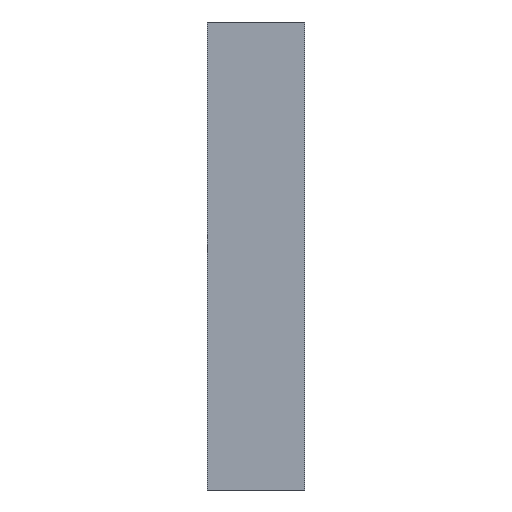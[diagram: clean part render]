
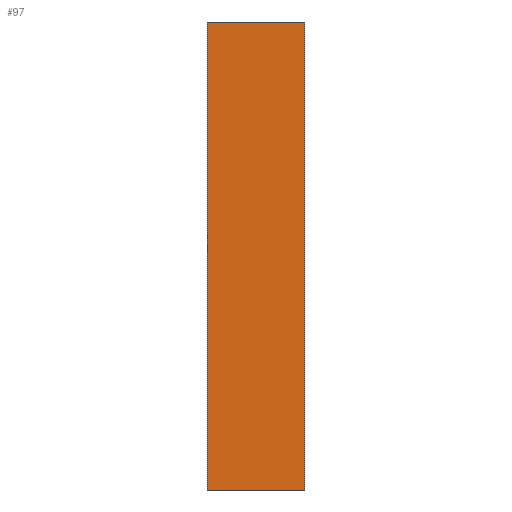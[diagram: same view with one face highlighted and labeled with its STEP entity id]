
A CAD part, front view. The second image highlights one B-rep face of the part: STEP entity #97.
In plain terms, the highlighted planar face has unit normal (0, -1, 0).
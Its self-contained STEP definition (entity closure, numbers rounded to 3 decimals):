
#21 = EDGE_CURVE('',#22,#24,#26,.T.);
#22 = VERTEX_POINT('',#23);
#23 = CARTESIAN_POINT('',(90.,-107.,83.781));
#24 = VERTEX_POINT('',#25);
#25 = CARTESIAN_POINT('',(90.,-107.,95.781));
#26 = LINE('',#27,#28);
#27 = CARTESIAN_POINT('',(90.,-107.,83.781));
#28 = VECTOR('',#29,1.);
#29 = DIRECTION('',(0.,0.,1.));
#61 = EDGE_CURVE('',#62,#64,#66,.T.);
#62 = VERTEX_POINT('',#63);
#63 = CARTESIAN_POINT('',(92.5,-107.,83.781));
#64 = VERTEX_POINT('',#65);
#65 = CARTESIAN_POINT('',(92.5,-107.,95.781));
#66 = LINE('',#67,#68);
#67 = CARTESIAN_POINT('',(92.5,-107.,83.781));
#68 = VECTOR('',#69,1.);
#69 = DIRECTION('',(0.,0.,1.));
#97 = ADVANCED_FACE('',(#98),#114,.F.);
#98 = FACE_BOUND('',#99,.F.);
#99 = EDGE_LOOP('',(#100,#106,#107,#113));
#100 = ORIENTED_EDGE('',*,*,#101,.F.);
#101 = EDGE_CURVE('',#22,#62,#102,.T.);
#102 = LINE('',#103,#104);
#103 = CARTESIAN_POINT('',(90.,-107.,83.781));
#104 = VECTOR('',#105,1.);
#105 = DIRECTION('',(1.,0.,0.));
#106 = ORIENTED_EDGE('',*,*,#21,.T.);
#107 = ORIENTED_EDGE('',*,*,#108,.T.);
#108 = EDGE_CURVE('',#24,#64,#109,.T.);
#109 = LINE('',#110,#111);
#110 = CARTESIAN_POINT('',(90.,-107.,95.781));
#111 = VECTOR('',#112,1.);
#112 = DIRECTION('',(1.,0.,0.));
#113 = ORIENTED_EDGE('',*,*,#61,.F.);
#114 = PLANE('',#115);
#115 = AXIS2_PLACEMENT_3D('',#116,#117,#118);
#116 = CARTESIAN_POINT('',(90.,-107.,83.781));
#117 = DIRECTION('',(0.,1.,0.));
#118 = DIRECTION('',(0.,0.,1.));
